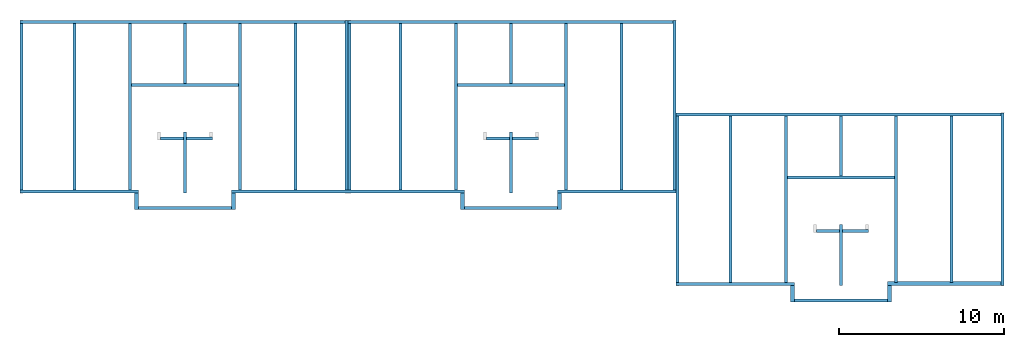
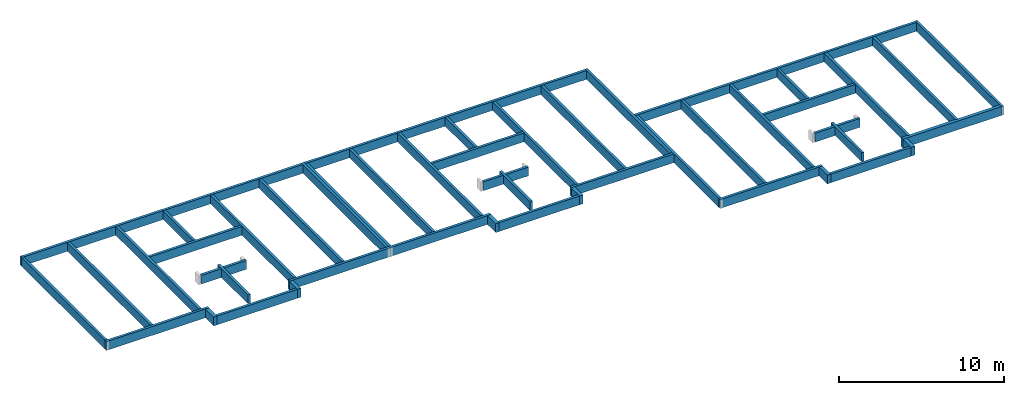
# One storey, part 1 of 6: 50 walls.
"""IFC2X3 building model written with IfcOpenShell, lengths in millimetres."""

from ifc_helpers import new_model, entity, si_unit, converted_unit, frame, frame_2d, origin, origin_with_axes, place, context, subcontext, project, spatial, polyline, rectangle, outline, extrude, material, layer, layer_set, layer_usage, element, save


model = new_model("IFC2X3")

# Units and contexts
model_context = context("Model", 3, precision=1e-05, world=origin())
plan_context = context("Plan", 3, precision=1e-05, world=origin())
body_context = subcontext(model_context, "Body", "Model", "MODEL_VIEW")
ifc_project = project(units=[si_unit("LENGTHUNIT", "METRE", prefix="MILLI"), converted_unit("PLANEANGLEUNIT", "DEGREE", entity("IfcPlaneAngleMeasure", 0.0174532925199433), si_unit("PLANEANGLEUNIT", "RADIAN"), dimensions=[0, 0, 0, 0, 0, 0, 0]), si_unit("AREAUNIT", "SQUARE_METRE"), si_unit("VOLUMEUNIT", "CUBIC_METRE")], contexts=[model_context, plan_context])

# Building, storey
building_placement = place(None, origin())
building = spatial("IfcBuilding", under=ifc_project, at=building_placement, Name="Bâtiment", CompositionType="ELEMENT")
storey_placement = place(building_placement, frame((0.0, 0.0, -850.0), z_axis=(0.0, 0.0, 1.0), x_axis=(1.0, 0.0, 0.0)))
storey = spatial("IfcBuildingStorey", under=building, at=storey_placement, Name="vs", CompositionType="ELEMENT", Elevation=-850.0)

# Walls
ifc_material_1 = material(Name="moellons")
ifc_layer_1 = layer(ifc_material_1, 180.0)
ifc_layer_set_1 = layer_set([ifc_layer_1])
ifc_layer_usage_1 = layer_usage(ifc_layer_set_1, "AXIS2", "POSITIVE", 0.0)
wall_1_placement = place(storey_placement, frame((-3.671044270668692e-12, 10290.07776548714, 0.0), z_axis=(0.0, 0.0, 1.0), x_axis=(-1.836970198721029e-16, -1.0, 0.0)))
element("IfcWallStandardCase", 1, at=wall_1_placement, inside=storey, material=ifc_layer_usage_1, context=body_context, shape_type="SweptSolid", body=[
    extrude(rectangle(XDim=10090.00021457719, YDim=180.0, at=frame_2d((5045.000107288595, 90.0), x_axis=(1.0, 0.0))), origin_with_axes(), (0.0, 0.0, 1.0), 650.0),
])
ifc_material_2 = material(Name="moellons")
ifc_layer_2 = layer(ifc_material_2, 180.0)
ifc_layer_set_2 = layer_set([ifc_layer_2])
ifc_layer_usage_2 = layer_usage(ifc_layer_set_2, "AXIS2", "POSITIVE", 0.0)
wall_2_placement = place(storey_placement, frame((32524.99999999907, 20.0775509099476, 0.0), z_axis=(0.0, 0.0, 1.0), x_axis=(1.0, 0.0, 0.0)))
element("IfcWallStandardCase", 2, at=wall_2_placement, inside=storey, material=ifc_layer_usage_2, context=body_context, shape_type="SweptSolid", body=[
    extrude(rectangle(XDim=7174.999999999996, YDim=180.0, at=frame_2d((3587.499999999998, 90.00000000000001), x_axis=(1.0, 0.0))), origin_with_axes(), (0.0, 0.0, 1.0), 650.0),
])
ifc_material_3 = material(Name="moellons")
ifc_layer_3 = layer(ifc_material_3, 180.0)
ifc_layer_set_3 = layer_set([ifc_layer_3])
ifc_layer_usage_3 = layer_usage(ifc_layer_set_3, "AXIS2", "POSITIVE", 0.0)
wall_3_placement = place(storey_placement, frame((39699.99999999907, 200.0775509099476, 0.0), z_axis=(0.0, 0.0, 1.0), x_axis=(0.0, 1.0, 0.0)))
element("IfcWallStandardCase", 3, at=wall_3_placement, inside=storey, material=ifc_layer_usage_3, context=body_context, shape_type="SweptSolid", body=[
    extrude(rectangle(XDim=10270.00021457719, YDim=180.0, at=frame_2d((5135.000107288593, 90.0), x_axis=(1.0, 0.0))), origin_with_axes(), (0.0, 0.0, 1.0), 650.0),
])
ifc_material_4 = material(Name="moellons")
ifc_layer_4 = layer(ifc_material_4, 180.0)
ifc_layer_set_4 = layer_set([ifc_layer_4])
ifc_layer_usage_4 = layer_usage(ifc_layer_set_4, "AXIS2", "POSITIVE", 0.0)
wall_4_placement = place(storey_placement, frame((39519.99999999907, 10470.07776548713, 0.0), z_axis=(0.0, 0.0, 1.0), x_axis=(-1.0, 9.247531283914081e-17, 0.0)))
element("IfcWallStandardCase", 4, at=wall_4_placement, inside=storey, material=ifc_layer_usage_4, context=body_context, shape_type="SweptSolid", body=[
    extrude(rectangle(XDim=19669.99999999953, YDim=180.0, at=frame_2d((9834.999999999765, 90.0), x_axis=(1.0, 0.0))), origin_with_axes(), (0.0, 0.0, 1.0), 650.0),
])
ifc_material_5 = material(Name="moellons")
ifc_layer_5 = layer(ifc_material_5, 180.0)
ifc_layer_set_5 = layer_set([ifc_layer_5])
ifc_layer_usage_5 = layer_usage(ifc_layer_set_5, "AXIS2", "POSITIVE", 0.0)
wall_5_placement = place(storey_placement, frame((19849.99999999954, 10290.07776548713, 0.0), z_axis=(0.0, 0.0, 1.0), x_axis=(-3.605559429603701e-16, -1.0, 0.0)))
element("IfcWallStandardCase", 5, at=wall_5_placement, inside=storey, material=ifc_layer_usage_5, context=body_context, shape_type="SweptSolid", body=[
    extrude(rectangle(XDim=10089.91497192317, YDim=180.0, at=frame_2d((5044.957485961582, 90.0), x_axis=(1.0, 0.0))), origin_with_axes(), (0.0, 0.0, 1.0), 650.0),
])
ifc_material_6 = material(Name="moellons")
ifc_layer_6 = layer(ifc_material_6, 180.0)
ifc_layer_set_6 = layer_set([ifc_layer_6])
ifc_layer_usage_6 = layer_usage(ifc_layer_set_6, "AXIS2", "POSITIVE", 0.0)
wall_6_placement = place(storey_placement, frame((19849.99999999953, 200.16279356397, 0.0), z_axis=(0.0, 0.0, 1.0), x_axis=(0.0, 1.0, 0.0)))
element("IfcWallStandardCase", 6, at=wall_6_placement, inside=storey, material=ifc_layer_usage_6, context=body_context, shape_type="SweptSolid", body=[
    extrude(rectangle(XDim=10269.91497192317, YDim=180.0, at=frame_2d((5134.957485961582, 90.0), x_axis=(1.0, 0.0))), origin_with_axes(), (0.0, 0.0, 1.0), 650.0),
])
ifc_material_7 = material(Name="moellons")
ifc_layer_7 = layer(ifc_material_7, 180.0)
ifc_layer_set_7 = layer_set([ifc_layer_7])
ifc_layer_usage_7 = layer_usage(ifc_layer_set_7, "AXIS2", "POSITIVE", 0.0)
wall_7_placement = place(storey_placement, frame((12795.00000000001, 20.16279356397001, 0.0), z_axis=(0.0, 0.0, 1.0), x_axis=(1.0, 0.0, 0.0)))
element("IfcWallStandardCase", 7, at=wall_7_placement, inside=storey, material=ifc_layer_usage_7, context=body_context, shape_type="SweptSolid", body=[
    extrude(rectangle(XDim=14110.00054685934, YDim=180.0, at=frame_2d((7055.000273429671, 90.00000000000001), x_axis=(1.0, 0.0))), origin_with_axes(), (0.0, 0.0, 1.0), 650.0),
])
ifc_material_8 = material(Name="moellons")
ifc_layer_8 = layer(ifc_material_8, 180.0)
ifc_layer_set_8 = layer_set([ifc_layer_8])
ifc_layer_usage_8 = layer_usage(ifc_layer_set_8, "AXIS2", "POSITIVE", 0.0)
wall_8_placement = place(storey_placement, frame((19669.99999999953, 10470.07776548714, 0.0), z_axis=(0.0, 0.0, 1.0), x_axis=(-1.0, 9.247531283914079e-17, 0.0)))
element("IfcWallStandardCase", 8, at=wall_8_placement, inside=storey, material=ifc_layer_usage_8, context=body_context, shape_type="SweptSolid", body=[
    extrude(rectangle(XDim=19669.99999999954, YDim=180.0, at=frame_2d((9834.999999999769, 90.0), x_axis=(1.0, 0.0))), origin_with_axes(), (0.0, 0.0, 1.0), 650.0),
])
ifc_material_9 = material(Name="moellons")
ifc_layer_9 = layer(ifc_material_9, 180.0)
ifc_layer_set_9 = layer_set([ifc_layer_9])
ifc_layer_usage_9 = layer_usage(ifc_layer_set_9, "AXIS2", "POSITIVE", 0.0)
wall_9_placement = place(storey_placement, frame((3380.0, 200.0775509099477, 0.0), z_axis=(0.0, 0.0, 1.0), x_axis=(4.506911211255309e-17, 1.0, 0.0)))
element("IfcWallStandardCase", 9, at=wall_9_placement, inside=storey, material=ifc_layer_usage_9, context=body_context, shape_type="SweptSolid", body=[
    extrude(rectangle(XDim=10090.00021457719, YDim=180.0, at=frame_2d((5045.000107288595, 90.0), x_axis=(1.0, 0.0))), origin_with_axes(), (0.0, 0.0, 1.0), 650.0),
])
ifc_material_10 = material(Name="moellons")
ifc_layer_10 = layer(ifc_material_10, 180.0000000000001)
ifc_layer_set_10 = layer_set([ifc_layer_10])
ifc_layer_usage_10 = layer_usage(ifc_layer_set_10, "AXIS2", "POSITIVE", 0.0)
wall_10_placement = place(storey_placement, frame((-5.557612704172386e-12, 20.0775509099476, 0.0), z_axis=(0.0, 0.0, 1.0), x_axis=(1.0, 0.0, 0.0)))
element("IfcWallStandardCase", 10, at=wall_10_placement, inside=storey, material=ifc_layer_usage_10, context=body_context, shape_type="SweptSolid", body=[
    extrude(rectangle(XDim=7175.000000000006, YDim=180.0000000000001, at=frame_2d((3587.500000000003, 90.00000000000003), x_axis=(1.0, 0.0))), origin_with_axes(), (0.0, 0.0, 1.0), 650.0),
])
ifc_material_11 = material(Name="moellons")
ifc_layer_11 = layer(ifc_material_11, 180.0)
ifc_layer_set_11 = layer_set([ifc_layer_11])
ifc_layer_usage_11 = layer_usage(ifc_layer_set_11, "AXIS2", "POSITIVE", 0.0)
wall_11_placement = place(storey_placement, frame((6759.999999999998, 200.0775509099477, 0.0), z_axis=(0.0, 0.0, 1.0), x_axis=(0.0, 1.0, 0.0)))
element("IfcWallStandardCase", 11, at=wall_11_placement, inside=storey, material=ifc_layer_usage_11, context=body_context, shape_type="SweptSolid", body=[
    extrude(rectangle(XDim=10090.00021457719, YDim=180.0, at=frame_2d((5045.000107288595, 90.0), x_axis=(1.0, 0.0))), origin_with_axes(), (0.0, 0.0, 1.0), 650.0),
])
ifc_material_12 = material(Name="moellons")
ifc_layer_12 = layer(ifc_material_12, 180.0)
ifc_layer_set_12 = layer_set([ifc_layer_12])
ifc_layer_usage_12 = layer_usage(ifc_layer_set_12, "AXIS2", "POSITIVE", 0.0)
wall_12_placement = place(storey_placement, frame((13389.99993810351, 200.16279356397, 0.0), z_axis=(0.0, 0.0, 1.0), x_axis=(0.0, 1.0, 0.0)))
element("IfcWallStandardCase", 12, at=wall_12_placement, inside=storey, material=ifc_layer_usage_12, context=body_context, shape_type="SweptSolid", body=[
    extrude(rectangle(XDim=10089.91497192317, YDim=180.0, at=frame_2d((5044.957485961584, 90.0), x_axis=(1.0, 0.0))), origin_with_axes(), (0.0, 0.0, 1.0), 650.0),
])
ifc_material_13 = material(Name="moellons")
ifc_layer_13 = layer(ifc_material_13, 180.0)
ifc_layer_set_13 = layer_set([ifc_layer_13])
ifc_layer_usage_13 = layer_usage(ifc_layer_set_13, "AXIS2", "POSITIVE", 0.0)
wall_13_placement = place(storey_placement, frame((16770.00000000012, 200.16279356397, 0.0), z_axis=(0.0, 0.0, 1.0), x_axis=(0.0, 1.0, 0.0)))
element("IfcWallStandardCase", 13, at=wall_13_placement, inside=storey, material=ifc_layer_usage_13, context=body_context, shape_type="SweptSolid", body=[
    extrude(rectangle(XDim=10089.91497192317, YDim=180.0, at=frame_2d((5044.957485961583, 90.0), x_axis=(1.0, 0.0))), origin_with_axes(), (0.0, 0.0, 1.0), 650.0),
])
ifc_material_14 = material(Name="moellons")
ifc_layer_14 = layer(ifc_material_14, 180.0)
ifc_layer_set_14 = layer_set([ifc_layer_14])
ifc_layer_usage_14 = layer_usage(ifc_layer_set_14, "AXIS2", "POSITIVE", 0.0)
wall_14_placement = place(storey_placement, frame((23109.99999999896, 200.16279356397, 0.0), z_axis=(0.0, 0.0, 1.0), x_axis=(0.0, 1.0, 0.0)))
element("IfcWallStandardCase", 14, at=wall_14_placement, inside=storey, material=ifc_layer_usage_14, context=body_context, shape_type="SweptSolid", body=[
    extrude(rectangle(XDim=10089.91497192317, YDim=180.0, at=frame_2d((5044.957485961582, 90.0), x_axis=(1.0, 0.0))), origin_with_axes(), (0.0, 0.0, 1.0), 650.0),
])
ifc_material_15 = material(Name="moellons")
ifc_layer_15 = layer(ifc_material_15, 180.0)
ifc_layer_set_15 = layer_set([ifc_layer_15])
ifc_layer_usage_15 = layer_usage(ifc_layer_set_15, "AXIS2", "POSITIVE", 0.0)
wall_15_placement = place(storey_placement, frame((26490.00006176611, 200.16279356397, 0.0), z_axis=(0.0, 0.0, 1.0), x_axis=(0.0, 1.0, 0.0)))
element("IfcWallStandardCase", 15, at=wall_15_placement, inside=storey, material=ifc_layer_usage_15, context=body_context, shape_type="SweptSolid", body=[
    extrude(rectangle(XDim=10089.91497192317, YDim=180.0, at=frame_2d((5044.957485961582, 90.0), x_axis=(1.0, 0.0))), origin_with_axes(), (0.0, 0.0, 1.0), 650.0),
])
ifc_material_16 = material(Name="moellons")
ifc_layer_16 = layer(ifc_material_16, 180.0)
ifc_layer_set_16 = layer_set([ifc_layer_16])
ifc_layer_usage_16 = layer_usage(ifc_layer_set_16, "AXIS2", "POSITIVE", 0.0)
wall_16_placement = place(storey_placement, frame((33119.99999999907, 200.077550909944, 0.0), z_axis=(0.0, 0.0, 1.0), x_axis=(0.0, 1.0, 0.0)))
element("IfcWallStandardCase", 16, at=wall_16_placement, inside=storey, material=ifc_layer_usage_16, context=body_context, shape_type="SweptSolid", body=[
    extrude(rectangle(XDim=10090.00021457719, YDim=180.0, at=frame_2d((5045.000107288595, 90.0), x_axis=(1.0, 0.0))), origin_with_axes(), (0.0, 0.0, 1.0), 650.0),
])
ifc_material_17 = material(Name="moellons")
ifc_layer_17 = layer(ifc_material_17, 180.0)
ifc_layer_set_17 = layer_set([ifc_layer_17])
ifc_layer_usage_17 = layer_usage(ifc_layer_set_17, "AXIS2", "POSITIVE", 0.0)
wall_17_placement = place(storey_placement, frame((36499.99999999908, 200.0775509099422, 0.0), z_axis=(0.0, 0.0, 1.0), x_axis=(0.0, 1.0, 0.0)))
element("IfcWallStandardCase", 17, at=wall_17_placement, inside=storey, material=ifc_layer_usage_17, context=body_context, shape_type="SweptSolid", body=[
    extrude(rectangle(XDim=10090.00021457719, YDim=180.0, at=frame_2d((5045.000107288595, 90.0), x_axis=(1.0, 0.0))), origin_with_axes(), (0.0, 0.0, 1.0), 650.0),
])
ifc_material_18 = material(Name="moellons")
ifc_layer_18 = layer(ifc_material_18, 180.0)
ifc_layer_set_18 = layer_set([ifc_layer_18])
ifc_layer_usage_18 = layer_usage(ifc_layer_set_18, "AXIS2", "POSITIVE", 0.0)
wall_18_placement = place(storey_placement, frame((10075.0, 6650.077765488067, 0.0), z_axis=(0.0, 0.0, 1.0), x_axis=(0.0, 1.0, 0.0)))
element("IfcWallStandardCase", 18, at=wall_18_placement, inside=storey, material=ifc_layer_usage_18, context=body_context, shape_type="SweptSolid", body=[
    extrude(rectangle(XDim=3639.999999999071, YDim=180.0, at=frame_2d((1819.999999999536, 90.0), x_axis=(1.0, 0.0))), origin_with_axes(), (0.0, 0.0, 1.0), 650.0),
])
ifc_material_19 = material(Name="moellons")
ifc_layer_19 = layer(ifc_material_19, 180.0)
ifc_layer_set_19 = layer_set([ifc_layer_19])
ifc_layer_usage_19 = layer_usage(ifc_layer_set_19, "AXIS2", "POSITIVE", 0.0)
wall_19_placement = place(storey_placement, frame((29804.99999999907, 6650.077765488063, 0.0), z_axis=(0.0, 0.0, 1.0), x_axis=(0.0, 1.0, 0.0)))
element("IfcWallStandardCase", 19, at=wall_19_placement, inside=storey, material=ifc_layer_usage_19, context=body_context, shape_type="SweptSolid", body=[
    extrude(rectangle(XDim=3639.999999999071, YDim=180.0, at=frame_2d((1819.999999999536, 90.0), x_axis=(1.0, 0.0))), origin_with_axes(), (0.0, 0.0, 1.0), 650.0),
])
ifc_material_20 = material(Name="moellons")
ifc_layer_20 = layer(ifc_material_20, 180.0)
ifc_layer_set_20 = layer_set([ifc_layer_20])
ifc_layer_usage_20 = layer_usage(ifc_layer_set_20, "AXIS2", "POSITIVE", 0.0)
wall_20_placement = place(storey_placement, frame((13209.99947974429, 6650.077765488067, 0.0), z_axis=(0.0, 0.0, 1.0), x_axis=(-1.0, 0.0, 0.0)))
element("IfcWallStandardCase", 20, at=wall_20_placement, inside=storey, material=ifc_layer_usage_20, context=body_context, shape_type="SweptSolid", body=[
    extrude(rectangle(XDim=6449.999479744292, YDim=180.0, at=frame_2d((3224.999739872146, 90.0), x_axis=(1.0, 0.0))), origin_with_axes(), (0.0, 0.0, 1.0), 650.0),
])
ifc_material_21 = material(Name="moellons")
ifc_layer_21 = layer(ifc_material_21, 180.0)
ifc_layer_set_21 = layer_set([ifc_layer_21])
ifc_layer_usage_21 = layer_usage(ifc_layer_set_21, "AXIS2", "POSITIVE", 0.0)
wall_21_placement = place(storey_placement, frame((11649.99945314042, 3400.077765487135, 0.0), z_axis=(0.0, 0.0, 1.0), x_axis=(-1.0, 0.0, 0.0)))
element("IfcWallStandardCase", 21, at=wall_21_placement, inside=storey, material=ifc_layer_usage_21, context=body_context, shape_type="SweptSolid", body=[
    extrude(outline(polyline([(0.0, 0.0), (1574.999453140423, 0.0), (1574.999453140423, 180.0), (0.0, 180.0), (0.0, 0.0)])), origin_with_axes(), (0.0, 0.0, 1.0), 650.0),
])
ifc_material_22 = material(Name="moellons")
ifc_layer_22 = layer(ifc_material_22, 180.0)
ifc_layer_set_22 = layer_set([ifc_layer_22])
ifc_layer_usage_22 = layer_usage(ifc_layer_set_22, "AXIS2", "POSITIVE", 0.0)
wall_22_placement = place(storey_placement, frame((11649.99945314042, 3400.077765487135, 0.0), z_axis=(0.0, 0.0, 1.0), x_axis=(-1.0, 0.0, 0.0)))
element("IfcWallStandardCase", 22, at=wall_22_placement, inside=storey, material=ifc_layer_usage_22, context=body_context, shape_type="SweptSolid", body=[
    extrude(outline(polyline([(1754.999453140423, 0.0), (3150.000000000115, 0.0), (3150.000000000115, 180.0), (1754.999453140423, 180.0), (1754.999453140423, 0.0)])), origin_with_axes(), (0.0, 0.0, 1.0), 650.0),
])
ifc_material_23 = material(Name="moellons")
ifc_layer_23 = layer(ifc_material_23, 180.0)
ifc_layer_set_23 = layer_set([ifc_layer_23])
ifc_layer_usage_23 = layer_usage(ifc_layer_set_23, "AXIS2", "POSITIVE", 0.0)
wall_23_placement = place(storey_placement, frame((32939.9995415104, 6650.077765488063, 0.0), z_axis=(0.0, 0.0, 1.0), x_axis=(-1.0, 0.0, 0.0)))
element("IfcWallStandardCase", 23, at=wall_23_placement, inside=storey, material=ifc_layer_usage_23, context=body_context, shape_type="SweptSolid", body=[
    extrude(rectangle(XDim=6449.999479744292, YDim=180.0, at=frame_2d((3224.999739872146, 90.0), x_axis=(1.0, 0.0))), origin_with_axes(), (0.0, 0.0, 1.0), 650.0),
])
ifc_material_24 = material(Name="moellons")
ifc_layer_24 = layer(ifc_material_24, 180.0)
ifc_layer_set_24 = layer_set([ifc_layer_24])
ifc_layer_usage_24 = layer_usage(ifc_layer_set_24, "AXIS2", "POSITIVE", 0.0)
wall_24_placement = place(storey_placement, frame((31379.99951490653, 3400.077765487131, 0.0), z_axis=(0.0, 0.0, 1.0), x_axis=(-1.0, 0.0, 0.0)))
element("IfcWallStandardCase", 24, at=wall_24_placement, inside=storey, material=ifc_layer_usage_24, context=body_context, shape_type="SweptSolid", body=[
    extrude(outline(polyline([(0.0, 0.0), (1574.999514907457, 0.0), (1574.999514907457, 180.0), (0.0, 180.0), (0.0, 0.0)])), origin_with_axes(), (0.0, 0.0, 1.0), 650.0),
])
ifc_material_25 = material(Name="moellons")
ifc_layer_25 = layer(ifc_material_25, 180.0)
ifc_layer_set_25 = layer_set([ifc_layer_25])
ifc_layer_usage_25 = layer_usage(ifc_layer_set_25, "AXIS2", "POSITIVE", 0.0)
wall_25_placement = place(storey_placement, frame((31379.99951490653, 3400.077765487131, 0.0), z_axis=(0.0, 0.0, 1.0), x_axis=(-1.0, 0.0, 0.0)))
element("IfcWallStandardCase", 25, at=wall_25_placement, inside=storey, material=ifc_layer_usage_25, context=body_context, shape_type="SweptSolid", body=[
    extrude(outline(polyline([(1754.999514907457, 0.0), (3150.000000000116, 0.0), (3150.000000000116, 180.0), (1754.999514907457, 180.0), (1754.999514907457, 0.0)])), origin_with_axes(), (0.0, 0.0, 1.0), 650.0),
])
ifc_material_26 = material(Name="moellons")
ifc_layer_26 = layer(ifc_material_26, 180.0)
ifc_layer_set_26 = layer_set([ifc_layer_26])
ifc_layer_usage_26 = layer_usage(ifc_layer_set_26, "AXIS2", "POSITIVE", 0.0)
wall_26_placement = place(storey_placement, frame((10075.0, 20.03821782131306, 0.0), z_axis=(0.0, 0.0, 1.0), x_axis=(0.0, 1.0, 0.0)))
element("IfcWallStandardCase", 26, at=wall_26_placement, inside=storey, material=ifc_layer_usage_26, context=body_context, shape_type="SweptSolid", body=[
    extrude(rectangle(XDim=3700.039547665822, YDim=180.0, at=frame_2d((1850.019773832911, 90.0), x_axis=(1.0, 0.0))), origin_with_axes(), (0.0, 0.0, 1.0), 650.0),
])
ifc_material_27 = material(Name="moellons")
ifc_layer_27 = layer(ifc_material_27, 180.0)
ifc_layer_set_27 = layer_set([ifc_layer_27])
ifc_layer_usage_27 = layer_usage(ifc_layer_set_27, "AXIS2", "POSITIVE", 0.0)
wall_27_placement = place(storey_placement, frame((29804.99999999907, 20.03893477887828, 0.0), z_axis=(0.0, 0.0, 1.0), x_axis=(0.0, 1.0, 0.0)))
element("IfcWallStandardCase", 27, at=wall_27_placement, inside=storey, material=ifc_layer_usage_27, context=body_context, shape_type="SweptSolid", body=[
    extrude(rectangle(XDim=3700.038830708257, YDim=180.0, at=frame_2d((1850.019415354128, 90.0), x_axis=(1.0, 0.0))), origin_with_axes(), (0.0, 0.0, 1.0), 650.0),
])
ifc_material_28 = material(Name="moellons")
ifc_layer_28 = layer(ifc_material_28, 250.0)
ifc_layer_set_28 = layer_set([ifc_layer_28])
ifc_layer_usage_28 = layer_usage(ifc_layer_set_28, "AXIS2", "POSITIVE", 0.0)
wall_28_placement = place(storey_placement, frame((26905.00054685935, -979.8369918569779, 0.0), z_axis=(0.0, 0.0, 1.0), x_axis=(0.0, 1.0, 0.0)))
element("IfcWallStandardCase", 28, at=wall_28_placement, inside=storey, material=ifc_layer_usage_28, context=body_context, shape_type="SweptSolid", body=[
    extrude(rectangle(XDim=999.9997854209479, YDim=250.0, at=frame_2d((499.9998927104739, 125.0), x_axis=(1.0, 0.0))), origin_with_axes(), (0.0, 0.0, 1.0), 650.0),
])
ifc_material_29 = material(Name="moellons")
ifc_layer_29 = layer(ifc_material_29, 249.9999999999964)
ifc_layer_set_29 = layer_set([ifc_layer_29])
ifc_layer_usage_29 = layer_usage(ifc_layer_set_29, "AXIS2", "POSITIVE", 0.0)
wall_29_placement = place(storey_placement, frame((32524.99999999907, 20.0775509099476, 0.0), z_axis=(0.0, 0.0, 1.0), x_axis=(0.0, -1.0, 0.0)))
element("IfcWallStandardCase", 29, at=wall_29_placement, inside=storey, material=ifc_layer_usage_29, context=body_context, shape_type="SweptSolid", body=[
    extrude(rectangle(XDim=999.9145427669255, YDim=249.9999999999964, at=frame_2d((499.9572713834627, 124.9999999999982), x_axis=(1.0, 0.0))), origin_with_axes(), (0.0, 0.0, 1.0), 650.0),
])
ifc_material_30 = material(Name="moellons")
ifc_layer_30 = layer(ifc_material_30, 250.0)
ifc_layer_set_30 = layer_set([ifc_layer_30])
ifc_layer_usage_30 = layer_usage(ifc_layer_set_30, "AXIS2", "POSITIVE", 0.0)
wall_30_placement = place(storey_placement, frame((6925.0, 20.0775509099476, 0.0), z_axis=(0.0, 0.0, 1.0), x_axis=(0.0, -1.0, 0.0)))
element("IfcWallStandardCase", 30, at=wall_30_placement, inside=storey, material=ifc_layer_usage_30, context=body_context, shape_type="SweptSolid", body=[
    extrude(rectangle(XDim=999.9997854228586, YDim=250.0, at=frame_2d((499.9998927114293, 125.0), x_axis=(1.0, 0.0))), origin_with_axes(), (0.0, 0.0, 1.0), 650.0),
])
ifc_material_31 = material(Name="moellons")
ifc_layer_31 = layer(ifc_material_31, 250.0)
ifc_layer_set_31 = layer_set([ifc_layer_31])
ifc_layer_usage_31 = layer_usage(ifc_layer_set_31, "AXIS2", "POSITIVE", 0.0)
wall_31_placement = place(storey_placement, frame((12795.00000000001, 20.16279356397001, 0.0), z_axis=(0.0, 0.0, 1.0), x_axis=(0.0, -1.0, 0.0)))
element("IfcWallStandardCase", 31, at=wall_31_placement, inside=storey, material=ifc_layer_usage_31, context=body_context, shape_type="SweptSolid", body=[
    extrude(rectangle(XDim=1000.085028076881, YDim=250.0, at=frame_2d((500.0425140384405, 125.0), x_axis=(1.0, 0.0))), origin_with_axes(), (0.0, 0.0, 1.0), 650.0),
])
ifc_material_32 = material(Name="moellons")
ifc_layer_32 = layer(ifc_material_32, 180.0)
ifc_layer_set_32 = layer_set([ifc_layer_32])
ifc_layer_usage_32 = layer_usage(ifc_layer_set_32, "AXIS2", "POSITIVE", 0.0)
wall_32_placement = place(storey_placement, frame((39699.99999999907, 4690.077765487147, 0.0), z_axis=(0.0, 0.0, 1.0), x_axis=(0.0, -1.0, 0.0)))
element("IfcWallStandardCase", 32, at=wall_32_placement, inside=storey, material=ifc_layer_usage_32, context=body_context, shape_type="SweptSolid", body=[
    extrude(rectangle(XDim=10090.00021457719, YDim=180.0, at=frame_2d((5045.000107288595, 90.0), x_axis=(1.0, 0.0))), origin_with_axes(), (0.0, 0.0, 1.0), 650.0),
])
ifc_material_33 = material(Name="moellons")
ifc_layer_33 = layer(ifc_material_33, 180.0)
ifc_layer_set_33 = layer_set([ifc_layer_33])
ifc_layer_usage_33 = layer_usage(ifc_layer_set_33, "AXIS2", "POSITIVE", 0.0)
wall_33_placement = place(storey_placement, frame((59549.99999999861, -5579.837206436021, 0.0), z_axis=(0.0, 0.0, 1.0), x_axis=(0.0, 1.0, 0.0)))
element("IfcWallStandardCase", 33, at=wall_33_placement, inside=storey, material=ifc_layer_usage_33, context=body_context, shape_type="SweptSolid", body=[
    extrude(rectangle(XDim=10449.91497192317, YDim=180.0, at=frame_2d((5224.957485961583, 90.0), x_axis=(1.0, 0.0))), origin_with_axes(), (0.0, 0.0, 1.0), 650.0),
])
ifc_material_34 = material(Name="moellons")
ifc_layer_34 = layer(ifc_material_34, 180.0)
ifc_layer_set_34 = layer_set([ifc_layer_34])
ifc_layer_usage_34 = layer_usage(ifc_layer_set_34, "AXIS2", "POSITIVE", 0.0)
wall_34_placement = place(storey_placement, frame((59369.99999999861, 4870.077765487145, 0.0), z_axis=(0.0, 0.0, 1.0), x_axis=(-1.0, 9.24753128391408e-17, 0.0)))
element("IfcWallStandardCase", 34, at=wall_34_placement, inside=storey, material=ifc_layer_usage_34, context=body_context, shape_type="SweptSolid", body=[
    extrude(rectangle(XDim=19669.99999999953, YDim=180.0, at=frame_2d((9834.999999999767, 90.0), x_axis=(1.0, 0.0))), origin_with_axes(), (0.0, 0.0, 1.0), 650.0),
])
ifc_material_35 = material(Name="moellons")
ifc_layer_35 = layer(ifc_material_35, 180.0)
ifc_layer_set_35 = layer_set([ifc_layer_35])
ifc_layer_usage_35 = layer_usage(ifc_layer_set_35, "AXIS2", "POSITIVE", 0.0)
wall_35_placement = place(storey_placement, frame((43079.99999999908, -5399.922449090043, 0.0), z_axis=(0.0, 0.0, 1.0), x_axis=(0.0, 1.0, 0.0)))
element("IfcWallStandardCase", 35, at=wall_35_placement, inside=storey, material=ifc_layer_usage_35, context=body_context, shape_type="SweptSolid", body=[
    extrude(rectangle(XDim=10090.00021457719, YDim=180.0, at=frame_2d((5045.000107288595, 90.0), x_axis=(1.0, 0.0))), origin_with_axes(), (0.0, 0.0, 1.0), 650.0),
])
ifc_material_36 = material(Name="moellons")
ifc_layer_36 = layer(ifc_material_36, 180.0)
ifc_layer_set_36 = layer_set([ifc_layer_36])
ifc_layer_usage_36 = layer_usage(ifc_layer_set_36, "AXIS2", "POSITIVE", 0.0)
wall_36_placement = place(storey_placement, frame((39699.99999999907, -5579.922449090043, 0.0), z_axis=(0.0, 0.0, 1.0), x_axis=(1.0, 0.0, 0.0)))
element("IfcWallStandardCase", 36, at=wall_36_placement, inside=storey, material=ifc_layer_usage_36, context=body_context, shape_type="SweptSolid", body=[
    extrude(rectangle(XDim=7175.000000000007, YDim=180.0, at=frame_2d((3587.500000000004, 90.0), x_axis=(1.0, 0.0))), origin_with_axes(), (0.0, 0.0, 1.0), 650.0),
])
ifc_material_37 = material(Name="moellons")
ifc_layer_37 = layer(ifc_material_37, 180.0)
ifc_layer_set_37 = layer_set([ifc_layer_37])
ifc_layer_usage_37 = layer_usage(ifc_layer_set_37, "AXIS2", "POSITIVE", 0.0)
wall_37_placement = place(storey_placement, frame((46459.99999999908, -5399.922449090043, 0.0), z_axis=(0.0, 0.0, 1.0), x_axis=(0.0, 1.0, 0.0)))
element("IfcWallStandardCase", 37, at=wall_37_placement, inside=storey, material=ifc_layer_usage_37, context=body_context, shape_type="SweptSolid", body=[
    extrude(rectangle(XDim=10090.00021457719, YDim=180.0, at=frame_2d((5045.000107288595, 90.0), x_axis=(1.0, 0.0))), origin_with_axes(), (0.0, 0.0, 1.0), 650.0),
])
ifc_material_38 = material(Name="moellons")
ifc_layer_38 = layer(ifc_material_38, 180.0)
ifc_layer_set_38 = layer_set([ifc_layer_38])
ifc_layer_usage_38 = layer_usage(ifc_layer_set_38, "AXIS2", "POSITIVE", 0.0)
wall_38_placement = place(storey_placement, frame((53089.99993810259, -5399.837206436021, 0.0), z_axis=(0.0, 0.0, 1.0), x_axis=(0.0, 1.0, 0.0)))
element("IfcWallStandardCase", 38, at=wall_38_placement, inside=storey, material=ifc_layer_usage_38, context=body_context, shape_type="SweptSolid", body=[
    extrude(rectangle(XDim=10089.91497192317, YDim=180.0, at=frame_2d((5044.957485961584, 90.0), x_axis=(1.0, 0.0))), origin_with_axes(), (0.0, 0.0, 1.0), 650.0),
])
ifc_material_39 = material(Name="moellons")
ifc_layer_39 = layer(ifc_material_39, 180.0)
ifc_layer_set_39 = layer_set([ifc_layer_39])
ifc_layer_usage_39 = layer_usage(ifc_layer_set_39, "AXIS2", "POSITIVE", 0.0)
wall_39_placement = place(storey_placement, frame((56469.99999999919, -5399.837206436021, 0.0), z_axis=(0.0, 0.0, 1.0), x_axis=(0.0, 1.0, 0.0)))
element("IfcWallStandardCase", 39, at=wall_39_placement, inside=storey, material=ifc_layer_usage_39, context=body_context, shape_type="SweptSolid", body=[
    extrude(rectangle(XDim=10089.91497192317, YDim=180.0, at=frame_2d((5044.957485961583, 90.0), x_axis=(1.0, 0.0))), origin_with_axes(), (0.0, 0.0, 1.0), 650.0),
])
ifc_material_40 = material(Name="moellons")
ifc_layer_40 = layer(ifc_material_40, 180.0)
ifc_layer_set_40 = layer_set([ifc_layer_40])
ifc_layer_usage_40 = layer_usage(ifc_layer_set_40, "AXIS2", "POSITIVE", 0.0)
wall_40_placement = place(storey_placement, frame((49774.99999999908, 1050.077765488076, 0.0), z_axis=(0.0, 0.0, 1.0), x_axis=(0.0, 1.0, 0.0)))
element("IfcWallStandardCase", 40, at=wall_40_placement, inside=storey, material=ifc_layer_usage_40, context=body_context, shape_type="SweptSolid", body=[
    extrude(rectangle(XDim=3639.999999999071, YDim=180.0, at=frame_2d((1819.999999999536, 90.0), x_axis=(1.0, 0.0))), origin_with_axes(), (0.0, 0.0, 1.0), 650.0),
])
ifc_material_41 = material(Name="moellons")
ifc_layer_41 = layer(ifc_material_41, 180.0)
ifc_layer_set_41 = layer_set([ifc_layer_41])
ifc_layer_usage_41 = layer_usage(ifc_layer_set_41, "AXIS2", "POSITIVE", 0.0)
wall_41_placement = place(storey_placement, frame((52909.99947974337, 1050.077765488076, 0.0), z_axis=(0.0, 0.0, 1.0), x_axis=(-1.0, 0.0, 0.0)))
element("IfcWallStandardCase", 41, at=wall_41_placement, inside=storey, material=ifc_layer_usage_41, context=body_context, shape_type="SweptSolid", body=[
    extrude(rectangle(XDim=6449.999479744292, YDim=180.0, at=frame_2d((3224.999739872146, 90.0), x_axis=(1.0, 0.0))), origin_with_axes(), (0.0, 0.0, 1.0), 650.0),
])
ifc_material_42 = material(Name="moellons")
ifc_layer_42 = layer(ifc_material_42, 180.0)
ifc_layer_set_42 = layer_set([ifc_layer_42])
ifc_layer_usage_42 = layer_usage(ifc_layer_set_42, "AXIS2", "POSITIVE", 0.0)
wall_42_placement = place(storey_placement, frame((51349.9994531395, -2199.922234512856, 0.0), z_axis=(0.0, 0.0, 1.0), x_axis=(-1.0, 0.0, 0.0)))
element("IfcWallStandardCase", 42, at=wall_42_placement, inside=storey, material=ifc_layer_usage_42, context=body_context, shape_type="SweptSolid", body=[
    extrude(outline(polyline([(0.0, 0.0), (1574.999453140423, 0.0), (1574.999453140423, 180.0), (0.0, 180.0), (0.0, 0.0)])), origin_with_axes(), (0.0, 0.0, 1.0), 650.0),
])
ifc_material_43 = material(Name="moellons")
ifc_layer_43 = layer(ifc_material_43, 180.0)
ifc_layer_set_43 = layer_set([ifc_layer_43])
ifc_layer_usage_43 = layer_usage(ifc_layer_set_43, "AXIS2", "POSITIVE", 0.0)
wall_43_placement = place(storey_placement, frame((51349.9994531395, -2199.922234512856, 0.0), z_axis=(0.0, 0.0, 1.0), x_axis=(-1.0, 0.0, 0.0)))
element("IfcWallStandardCase", 43, at=wall_43_placement, inside=storey, material=ifc_layer_usage_43, context=body_context, shape_type="SweptSolid", body=[
    extrude(outline(polyline([(1754.999453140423, 0.0), (3150.000000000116, 0.0), (3150.000000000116, 180.0), (1754.999453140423, 180.0), (1754.999453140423, 0.0)])), origin_with_axes(), (0.0, 0.0, 1.0), 650.0),
])
ifc_material_44 = material(Name="moellons")
ifc_layer_44 = layer(ifc_material_44, 180.0)
ifc_layer_set_44 = layer_set([ifc_layer_44])
ifc_layer_usage_44 = layer_usage(ifc_layer_set_44, "AXIS2", "POSITIVE", 0.0)
wall_44_placement = place(storey_placement, frame((49774.99999999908, -5579.961782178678, 0.0), z_axis=(0.0, 0.0, 1.0), x_axis=(0.0, 1.0, 0.0)))
element("IfcWallStandardCase", 44, at=wall_44_placement, inside=storey, material=ifc_layer_usage_44, context=body_context, shape_type="SweptSolid", body=[
    extrude(rectangle(XDim=3700.039547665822, YDim=180.0, at=frame_2d((1850.019773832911, 90.0), x_axis=(1.0, 0.0))), origin_with_axes(), (0.0, 0.0, 1.0), 650.0),
])
ifc_material_45 = material(Name="moellons")
ifc_layer_45 = layer(ifc_material_45, 250.0)
ifc_layer_set_45 = layer_set([ifc_layer_45])
ifc_layer_usage_45 = layer_usage(ifc_layer_set_45, "AXIS2", "POSITIVE", 0.0)
wall_45_placement = place(storey_placement, frame((46624.99999999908, -5579.922449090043, 0.0), z_axis=(0.0, 0.0, 1.0), x_axis=(0.0, -1.0, 0.0)))
element("IfcWallStandardCase", 45, at=wall_45_placement, inside=storey, material=ifc_layer_usage_45, context=body_context, shape_type="SweptSolid", body=[
    extrude(rectangle(XDim=999.9997854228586, YDim=250.0, at=frame_2d((499.9998927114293, 125.0), x_axis=(1.0, 0.0))), origin_with_axes(), (0.0, 0.0, 1.0), 650.0),
])
ifc_material_46 = material(Name="moellons")
ifc_layer_46 = layer(ifc_material_46, 250.0)
ifc_layer_set_46 = layer_set([ifc_layer_46])
ifc_layer_usage_46 = layer_usage(ifc_layer_set_46, "AXIS2", "POSITIVE", 0.0)
wall_46_placement = place(storey_placement, frame((52494.99999999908, -5579.837206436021, 0.0), z_axis=(0.0, 0.0, 1.0), x_axis=(0.0, -1.0, 0.0)))
element("IfcWallStandardCase", 46, at=wall_46_placement, inside=storey, material=ifc_layer_usage_46, context=body_context, shape_type="SweptSolid", body=[
    extrude(rectangle(XDim=1000.085028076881, YDim=250.0, at=frame_2d((500.0425140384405, 125.0), x_axis=(1.0, 0.0))), origin_with_axes(), (0.0, 0.0, 1.0), 650.0),
])
ifc_material_47 = material(Name="moellons")
ifc_layer_47 = layer(ifc_material_47, 180.0)
ifc_material_48 = material(Name="briquettes")
ifc_layer_48 = layer(ifc_material_48, 40.0)
ifc_material_49 = material(Name="enduit platre")
ifc_layer_49 = layer(ifc_material_49, 10.0)
ifc_layer_set_47 = layer_set([ifc_layer_47, ifc_layer_48, ifc_layer_49])
ifc_layer_usage_47 = layer_usage(ifc_layer_set_47, "AXIS2", "POSITIVE", 0.0)
wall_47_placement = place(storey_placement, frame((52494.99999999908, -5579.837206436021, 0.0), z_axis=(0.0, 0.0, 1.0), x_axis=(1.0, 0.0, 0.0)))
element("IfcWallStandardCase", 47, at=wall_47_placement, inside=storey, material=ifc_layer_usage_47, context=body_context, shape_type="SweptSolid", body=[
    extrude(outline(polyline([(3975.000000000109, 230.0), (3975.000000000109, 180.0), (3795.000000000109, 180.0), (3795.000000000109, 230.0), (594.9999381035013, 230.0), (594.9999381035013, 180.0), (414.9999381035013, 180.0), (414.9999381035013, 230.0), (0.0, 230.0), (0.0, 0.0), (6874.999999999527, 0.0), (6874.999999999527, 230.0), (3975.000000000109, 230.0)])), origin_with_axes(), (0.0, 0.0, 1.0), 650.0),
])
ifc_material_50 = material(Name="moellons")
ifc_layer_50 = layer(ifc_material_50, 180.0)
ifc_layer_set_48 = layer_set([ifc_layer_50])
ifc_layer_usage_48 = layer_usage(ifc_layer_set_48, "AXIS2", "POSITIVE", 0.0)
wall_48_placement = place(storey_placement, frame((7175.0, -979.922234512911, 0.0), z_axis=(0.0, 0.0, 1.0), x_axis=(1.0, 0.0, 0.0)))
element("IfcWallStandardCase", 48, at=wall_48_placement, inside=storey, material=ifc_layer_usage_48, context=body_context, shape_type="SweptSolid", body=[
    extrude(rectangle(XDim=5620.000000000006, YDim=180.0, at=frame_2d((2810.000000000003, 90.0), x_axis=(1.0, 0.0))), origin_with_axes(), (0.0, 0.0, 1.0), 650.0),
])
ifc_material_51 = material(Name="moellons")
ifc_layer_51 = layer(ifc_material_51, 180.0)
ifc_layer_set_49 = layer_set([ifc_layer_51])
ifc_layer_usage_49 = layer_usage(ifc_layer_set_49, "AXIS2", "POSITIVE", 0.0)
wall_49_placement = place(storey_placement, frame((26905.00054685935, -979.8369918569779, 0.0), z_axis=(0.0, 0.0, 1.0), x_axis=(1.0, 0.0, 0.0)))
element("IfcWallStandardCase", 49, at=wall_49_placement, inside=storey, material=ifc_layer_usage_49, context=body_context, shape_type="SweptSolid", body=[
    extrude(rectangle(XDim=5619.999453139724, YDim=180.0, at=frame_2d((2809.999726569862, 90.0), x_axis=(1.0, 0.0))), origin_with_axes(), (0.0, 0.0, 1.0), 650.0),
])
ifc_material_52 = material(Name="moellons")
ifc_layer_52 = layer(ifc_material_52, 180.0)
ifc_layer_set_50 = layer_set([ifc_layer_52])
ifc_layer_usage_50 = layer_usage(ifc_layer_set_50, "AXIS2", "POSITIVE", 0.0)
wall_50_placement = place(storey_placement, frame((46874.99999999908, -6579.922234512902, 0.0), z_axis=(0.0, 0.0, 1.0), x_axis=(1.0, 0.0, 0.0)))
element("IfcWallStandardCase", 50, at=wall_50_placement, inside=storey, material=ifc_layer_usage_50, context=body_context, shape_type="SweptSolid", body=[
    extrude(rectangle(XDim=5620.000000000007, YDim=180.0, at=frame_2d((2810.000000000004, 90.0), x_axis=(1.0, 0.0))), origin_with_axes(), (0.0, 0.0, 1.0), 650.0),
])

save(model, "model.ifc")
